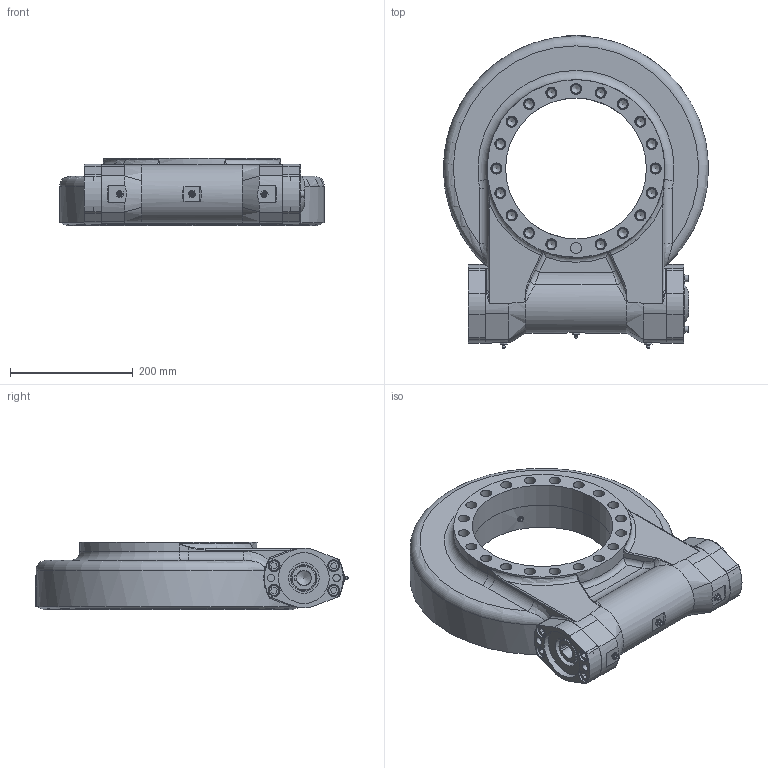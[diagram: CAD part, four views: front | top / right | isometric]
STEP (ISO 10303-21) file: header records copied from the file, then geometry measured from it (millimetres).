
FILE_DESCRIPTION (( 'STEP AP214' ), '1' );
FILE_NAME ('FGE12-78M-25H-R-REV.A.STEP', '2022-09-13T00:49:38', ( '' ), ( '' ), 'SwSTEP 2.0', 'SolidWorks 2018', '' );
FILE_SCHEMA (( 'AUTOMOTIVE_DESIGN' ));
Length unit declared in the file: millimetre
Products named in the file (1): FGE12-78M-25H-R-REV.A
Bounding box: 430.95 x 510.36 x 110.4 mm (x, y, z)
Volume: 7878097.5 mm3; surface area: 1266881.2 mm2
Topology: 18 solids, 18 shells, 880 faces, 1916 edges, 1222 vertices
Faces by surface type: plane 389, cylinder 299, cone 96, torus 48, bspline 45, sphere 3
Full cylindrical faces by diameter (mm): 5 x2, 6 x2, 6.8 x4, 7 x5, 8 x11, 9 x6, 9.093 x1, 10 x8, 10.2 x8, 12 x10, 13 x12, 14 x41, 16 x37, 18 x28, 19 x1, 19.5 x8, 24 x1, 25.4 x1, 35 x1, 40 x4, 41.908 x2, 47 x2, 50 x4, 57 x1, 66 x2, 68.5 x2, 75 x2, 80 x4, 82.55 x1, 82.8 x2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
Entity records: 34882 total; most frequent: CARTESIAN_POINT 7645, DIRECTION 3670, ORIENTED_EDGE 2876, AXIS2_PLACEMENT_3D 1553, EDGE_LOOP 1472, EDGE_CURVE 1438, FACE_OUTER_BOUND 1148, VERTEX_POINT 1110
